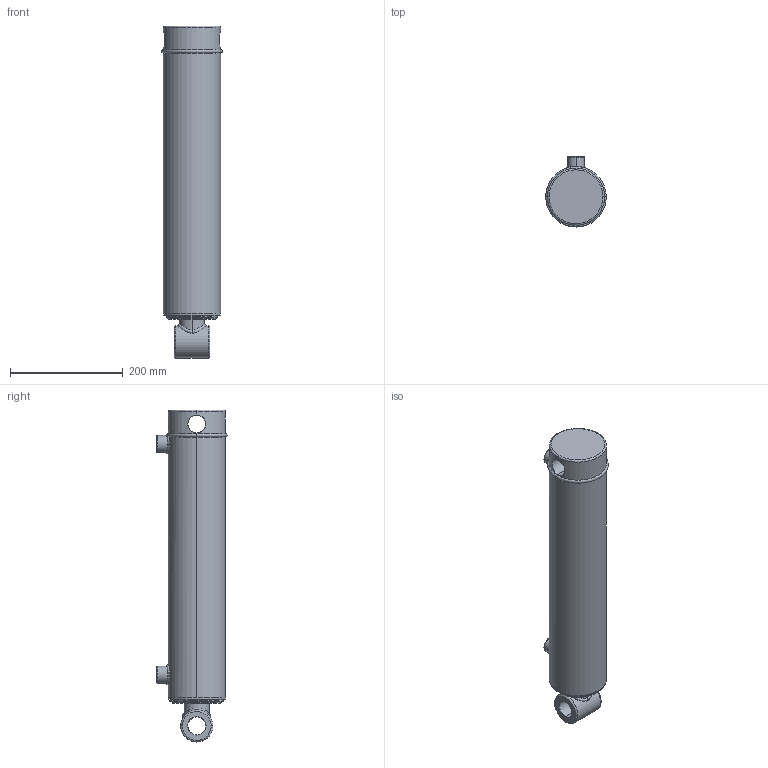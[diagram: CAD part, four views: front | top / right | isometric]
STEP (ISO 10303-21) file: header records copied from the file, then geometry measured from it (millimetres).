
FILE_DESCRIPTION (( 'STEP AP203' ), '1' );
FILE_NAME ('SB-C350175x355 (14).STEP', '2015-04-01T02:03:33', ( '' ), ( '' ), 'SwSTEP 2.0', 'SolidWorks 2015', '' );
FILE_SCHEMA (( 'CONFIG_CONTROL_DESIGN' ));
Length unit declared in the file: millimetre
Products named in the file (6): SB-C350175x457 (18) BODY; SB-C350175x355 (14); 18 spare_14; SB-C350175x457 (18) BODY_14; 3.5 INCH CIRCLIP; spare 18
Assembly tree (5 placements, depth 3):
  SB-C350175x355 (14)
    SB-C350175x457 (18) BODY
      SB-C350175x457 (18) BODY_14
      3.5 INCH CIRCLIP
    spare 18
      18 spare_14
Bounding box: 107.6 x 124.6 x 589.58 mm (x, y, z)
Volume: 4410728.9 mm3; surface area: 336747.5 mm2
Topology: 3 solids, 3 shells, 114 faces, 269 edges, 167 vertices
Faces by surface type: cylinder 49, plane 23, bspline 22, cone 12, torus 8
Entity records: 13049 total; most frequent: CARTESIAN_POINT 9929, ORIENTED_EDGE 530, DIRECTION 518, EDGE_CURVE 265, AXIS2_PLACEMENT_3D 220, VERTEX_POINT 167, EDGE_LOOP 134, CIRCLE 118
